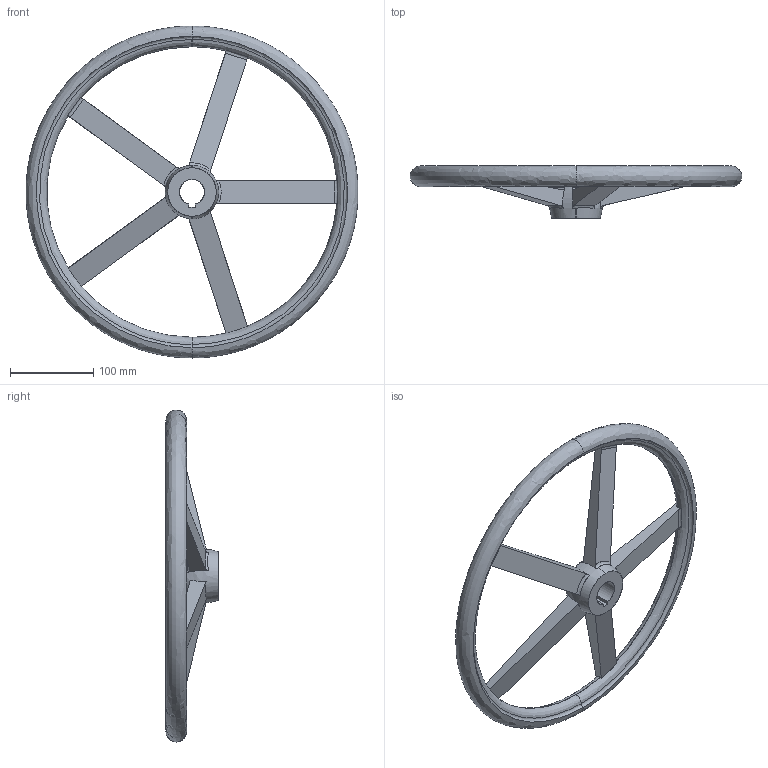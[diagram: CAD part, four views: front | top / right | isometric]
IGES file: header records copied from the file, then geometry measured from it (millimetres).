
Start section: SolidWorks IGES file using analytic representation for surfaces
Global section: file name: C:\Users\IanO\Desktop\Temp File\Process pending\77120_v2\77120_v2_20171108_IGES\77120.W0150.igs; native system: SolidWorks 2017; preprocessor: SolidWorks 2017; author: IanO; date: 171108.083251; units: millimetre
Bounding box: 400 x 63 x 400 mm (x, y, z)
Surface area: 165455 mm2 (no closed solid volume)
Topology: 0 solids, 0 shells, 53 faces, 1144 edges, 1136 vertices
Faces by surface type: bspline 52, revolution 1
